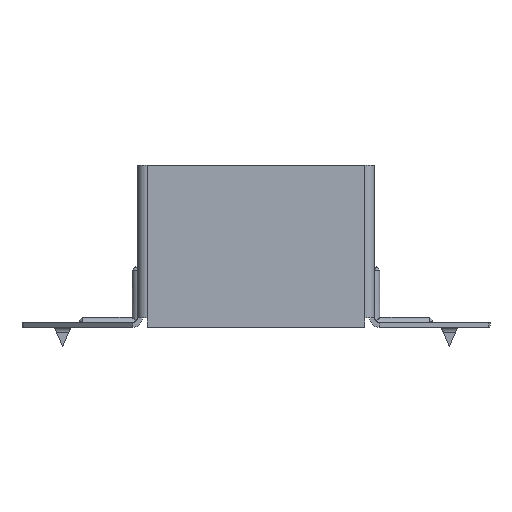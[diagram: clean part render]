
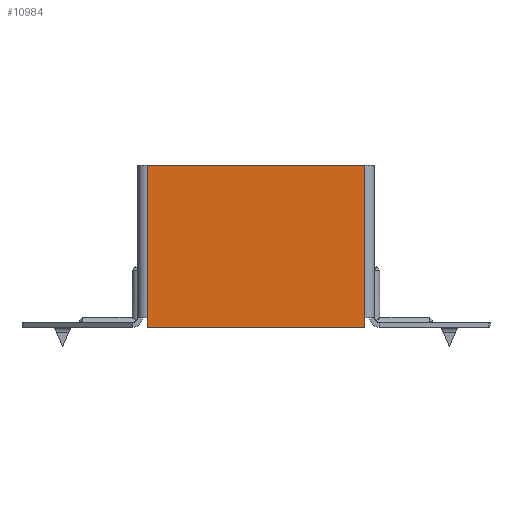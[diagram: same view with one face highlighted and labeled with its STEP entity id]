
A CAD part, front view. The second image highlights one B-rep face of the part: STEP entity #10984.
In plain terms, the highlighted planar face has unit normal (0, -1, 0).
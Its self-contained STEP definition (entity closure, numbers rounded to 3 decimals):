
#149 = DIRECTION ( 'NONE',  ( 0., 0., -1. ) ) ;
#358 = CARTESIAN_POINT ( 'NONE',  ( 33.5, 0., -70. ) ) ;
#564 = LINE ( 'NONE', #13055, #11253 ) ;
#623 = ORIENTED_EDGE ( 'NONE', *, *, #7703, .T. ) ;
#736 = CARTESIAN_POINT ( 'NONE',  ( 33.5, 0., -70. ) ) ;
#892 = CARTESIAN_POINT ( 'NONE',  ( -33.5, 0., -70. ) ) ;
#1006 = VERTEX_POINT ( 'NONE', #13730 ) ;
#1975 = VECTOR ( 'NONE', #12631, 1000. ) ;
#2677 = EDGE_CURVE ( 'NONE', #8111, #4836, #7228, .T. ) ;
#2916 = DIRECTION ( 'NONE',  ( -1., 0., 0. ) ) ;
#3167 = VERTEX_POINT ( 'NONE', #10647 ) ;
#3273 = ORIENTED_EDGE ( 'NONE', *, *, #9981, .T. ) ;
#3556 = DIRECTION ( 'NONE',  ( 0., 0., 1. ) ) ;
#3585 = VECTOR ( 'NONE', #8060, 1000. ) ;
#4093 = ORIENTED_EDGE ( 'NONE', *, *, #11182, .F. ) ;
#4836 = VERTEX_POINT ( 'NONE', #14167 ) ;
#5305 = CARTESIAN_POINT ( 'NONE',  ( 0., 0., -20. ) ) ;
#5980 = AXIS2_PLACEMENT_3D ( 'NONE', #8533, #14567, #3556 ) ;
#6026 = PLANE ( 'NONE',  #5980 ) ;
#6656 = CARTESIAN_POINT ( 'NONE',  ( -35., 0., -70. ) ) ;
#7077 = EDGE_LOOP ( 'NONE', ( #12478, #623, #11640, #4093, #15000, #3273 ) ) ;
#7093 = LINE ( 'NONE', #6656, #7684 ) ;
#7228 = LINE ( 'NONE', #736, #3585 ) ;
#7489 = CARTESIAN_POINT ( 'NONE',  ( -33.5, 0., -20. ) ) ;
#7684 = VECTOR ( 'NONE', #9175, 1000. ) ;
#7703 = EDGE_CURVE ( 'NONE', #12692, #3167, #564, .T. ) ;
#8060 = DIRECTION ( 'NONE',  ( 0., 0., 1. ) ) ;
#8111 = VERTEX_POINT ( 'NONE', #8514 ) ;
#8487 = VECTOR ( 'NONE', #2916, 1000. ) ;
#8514 = CARTESIAN_POINT ( 'NONE',  ( 33.5, 0., -70. ) ) ;
#8533 = CARTESIAN_POINT ( 'NONE',  ( 0., 0., 0. ) ) ;
#9175 = DIRECTION ( 'NONE',  ( -1., 0., 0. ) ) ;
#9439 = CARTESIAN_POINT ( 'NONE',  ( -33.5, 0., 0. ) ) ;
#9981 = EDGE_CURVE ( 'NONE', #4836, #1006, #13044, .T. ) ;
#10157 = LINE ( 'NONE', #5305, #8487 ) ;
#10529 = FACE_OUTER_BOUND ( 'NONE', #7077, .T. ) ;
#10647 = CARTESIAN_POINT ( 'NONE',  ( -33.5, 0., -67. ) ) ;
#10984 = ADVANCED_FACE ( 'NONE', ( #10529 ), #6026, .F. ) ;
#11182 = EDGE_CURVE ( 'NONE', #8111, #13079, #7093, .T. ) ;
#11253 = VECTOR ( 'NONE', #13115, 1000. ) ;
#11640 = ORIENTED_EDGE ( 'NONE', *, *, #13150, .T. ) ;
#12478 = ORIENTED_EDGE ( 'NONE', *, *, #12895, .T. ) ;
#12631 = DIRECTION ( 'NONE',  ( 0., 0., 1. ) ) ;
#12689 = VECTOR ( 'NONE', #149, 1000. ) ;
#12692 = VERTEX_POINT ( 'NONE', #7489 ) ;
#12880 = LINE ( 'NONE', #9439, #12689 ) ;
#12895 = EDGE_CURVE ( 'NONE', #1006, #12692, #10157, .T. ) ;
#13044 = LINE ( 'NONE', #358, #1975 ) ;
#13055 = CARTESIAN_POINT ( 'NONE',  ( -33.5, 0., 0. ) ) ;
#13079 = VERTEX_POINT ( 'NONE', #892 ) ;
#13115 = DIRECTION ( 'NONE',  ( 0., 0., -1. ) ) ;
#13150 = EDGE_CURVE ( 'NONE', #3167, #13079, #12880, .T. ) ;
#13730 = CARTESIAN_POINT ( 'NONE',  ( 33.5, 0., -20. ) ) ;
#14167 = CARTESIAN_POINT ( 'NONE',  ( 33.5, 0., -67. ) ) ;
#14567 = DIRECTION ( 'NONE',  ( 0., 1., 0. ) ) ;
#15000 = ORIENTED_EDGE ( 'NONE', *, *, #2677, .T. ) ;
